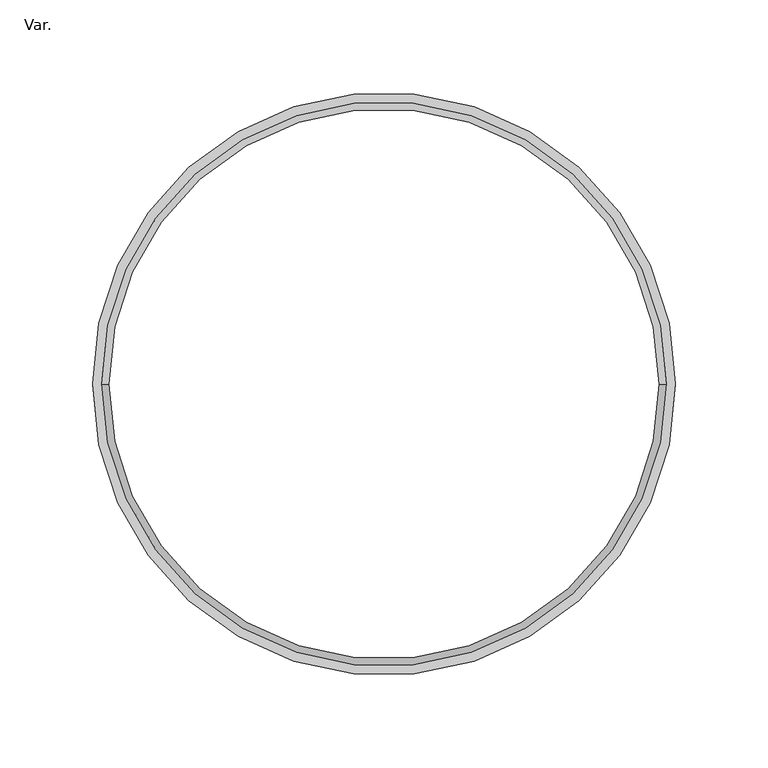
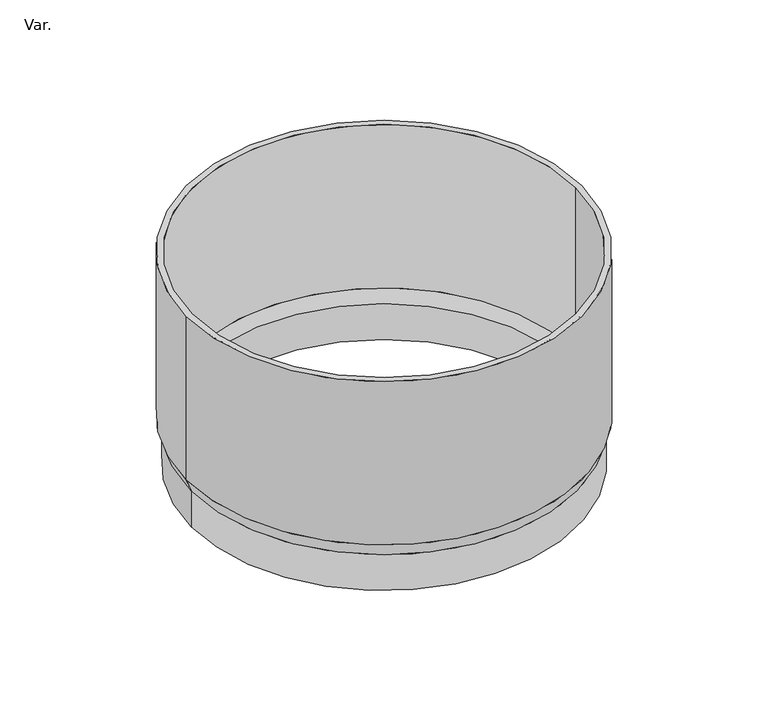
"""IFC4 building model written with IfcOpenShell, lengths in millimetres: pipe fitting geometry, AmancoWavin_ConexõesdeTubos_EsgotoZNãoUsarEsgotoProlongamento300mm : Var.."""

from ifc_helpers import new_model, si_unit, point, frame, origin, origin_2d, place, context, project, spatial, polyline, circle_curve, trimmed, segment, composite_curve, outline, extrude, source, transform, mapped, element, save
from ifc_brep_helpers import plane_surface, cylinder_surface, revolved_surface, advanced_brep


def var_ae364558(model_context):
    return source(origin(), model_context, "Body", "SolidModel", [
        extrude(outline(composite_curve([segment(trimmed(circle_curve(origin_2d(), 157.5), [point((-157.5, 0.0))], [point((157.5, 0.0))], False, "CARTESIAN"), True, "CONTINUOUS"), segment(trimmed(circle_curve(origin_2d(), 157.5), [point((157.5, 0.0))], [point((-157.5, 0.0))], False, "CARTESIAN"), True, "CONTINUOUS")], self_intersect=False), holes=[composite_curve([segment(trimmed(circle_curve(origin_2d(), 152.5), [point((-152.5, 0.0))], [point((152.5, 0.0))], True, "CARTESIAN"), True, "CONTINUOUS"), segment(trimmed(circle_curve(origin_2d(), 152.5), [point((152.5, 0.0))], [point((-152.5, 0.0))], True, "CARTESIAN"), True, "CONTINUOUS")], self_intersect=False)]), frame((0.0, 0.0, 40.9903811), z_axis=(0.0, 0.0, 1.0), x_axis=(1.0, 0.0, 0.0)), (0.0, 0.0, 1.0), 137.8096189),
        advanced_brep(
        [(153.8, 0.0, 30.2), (-153.8, 0.0, 30.2), (-157.5, 0.0, 40.9903811), (157.5, 0.0, 40.9903811), (153.8, 0.0, 0.0), (-153.8, 0.0, 0.0), (148.8, 0.0, 0.0), (-148.8, 0.0, 0.0), (148.8, 0.0, 30.2), (-148.8, 0.0, 30.2), (152.5, 0.0, 40.9903811), (-152.5, 0.0, 40.9903811)],
        [
            (0, 1, circle_curve(frame((0.0, 0.0, 30.2), z_axis=(0.0, 0.0, 1.0), x_axis=(-1.0, 0.0, 0.0)), 153.8)),
            (1, 2),
            (2, 3, circle_curve(frame((0.0, 0.0, 40.9903811), z_axis=(0.0, 0.0, -1.0), x_axis=(-1.0, 0.0, 0.0)), 157.5)),
            (3, 0),
            (1, 0, circle_curve(frame((0.0, 0.0, 30.2), z_axis=(0.0, 0.0, 1.0), x_axis=(-1.0, 0.0, 0.0)), 153.8)),
            (3, 2, circle_curve(frame((0.0, 0.0, 40.9903811), z_axis=(0.0, 0.0, -1.0), x_axis=(-1.0, 0.0, 0.0)), 157.5)),
            (4, 5, circle_curve(frame((0.0, 0.0, 0.0), z_axis=(0.0, 0.0, 1.0), x_axis=(-1.0, 0.0, 0.0)), 153.8)),
            (5, 1),
            (0, 4),
            (5, 4, circle_curve(frame((0.0, 0.0, 0.0), z_axis=(0.0, 0.0, 1.0), x_axis=(-1.0, 0.0, 0.0)), 153.8)),
            (6, 7, circle_curve(frame((0.0, 0.0, 0.0), z_axis=(0.0, 0.0, 1.0), x_axis=(-1.0, 0.0, 0.0)), 148.8)),
            (7, 5),
            (4, 6),
            (7, 6, circle_curve(frame((0.0, 0.0, 0.0), z_axis=(0.0, 0.0, 1.0), x_axis=(-1.0, 0.0, 0.0)), 148.8)),
            (8, 9, circle_curve(frame((0.0, 0.0, 30.2), z_axis=(0.0, 0.0, 1.0), x_axis=(-1.0, 0.0, 0.0)), 148.8)),
            (9, 7),
            (6, 8),
            (9, 8, circle_curve(frame((0.0, 0.0, 30.2), z_axis=(0.0, 0.0, 1.0), x_axis=(-1.0, 0.0, 0.0)), 148.8)),
            (10, 11, circle_curve(frame((0.0, 0.0, 40.9903811), z_axis=(0.0, 0.0, 1.0), x_axis=(-1.0, 0.0, 0.0)), 152.5)),
            (11, 9),
            (8, 10),
            (11, 10, circle_curve(frame((0.0, 0.0, 40.9903811), z_axis=(0.0, 0.0, 1.0), x_axis=(-1.0, 0.0, 0.0)), 152.5)),
            (2, 11),
            (10, 3),
        ],
        [
            revolved_surface(polyline([(-157.5, 0.0, 40.9903811), (-153.8, 0.0, 30.2)]), (0.0, 0.0, 2124.8843863), (0.0, 0.0, -1.0)),
            cylinder_surface(frame((0.0, 0.0, 2124.8843863), z_axis=(0.0, 0.0, -1.0), x_axis=(-1.0, 0.0, 0.0)), 153.8),
            plane_surface(frame((0.0, 0.0, 0.0), z_axis=(0.0, 0.0, -1.0), x_axis=(-1.0, 0.0, 0.0))),
            revolved_surface(polyline([(-148.8, 0.0, 0.0), (-148.8, 0.0, 30.199999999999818)]), (0.0, 0.0, 2124.8843863), (0.0, 0.0, -1.0)),
            revolved_surface(polyline([(-148.8, 0.0, 30.2), (-152.5, 0.0, 40.9903811)]), (0.0, 0.0, 2124.8843863), (0.0, 0.0, -1.0)),
            plane_surface(frame((0.0, 0.0, 40.9903811), z_axis=(0.0, 0.0, 1.0), x_axis=(-1.0, 0.0, 0.0))),
        ],
        [
            (0, [[1, 2, 3, 4]]),
            (0, [[5, -4, 6, -2]]),
            (1, [[7, 8, -1, 9]]),
            (1, [[10, -9, -5, -8]]),
            (2, [[11, 12, -7, 13]]),
            (2, [[14, -13, -10, -12]]),
            (3, [[15, 16, -11, 17]]),
            (3, [[18, -17, -14, -16]]),
            (4, [[19, 20, -15, 21]]),
            (4, [[22, -21, -18, -20]]),
            (5, [[-3, 23, -19, 24]]),
            (5, [[-6, -24, -22, -23]]),
        ],
    ),
    ])


if __name__ == "__main__":
    model = new_model("IFC4")
    model_context = context("Model", 3, world=origin())
    ifc_project = project(units=[si_unit("LENGTHUNIT", "METRE", prefix="MILLI")], contexts=[model_context])
    site = spatial("IfcSite", under=ifc_project)
    building = spatial("IfcBuilding", under=site)
    placement = place(None, origin())
    var_shape = var_ae364558(model_context)
    element("IfcPipeFitting", 1, ObjectType="AmancoWavin_ConexõesdeTubos_EsgotoZNãoUsarEsgotoProlongamento300mm : Var.", at=placement, inside=building, context=model_context, shape_type="MappedRepresentation", body=[
        mapped(var_shape, transform((0.0, 0.0, 0.0), x_axis=(1.0, 0.0, 0.0), y_axis=(0.0, 1.0, 0.0), z_axis=(0.0, 0.0, 1.0))),
    ])
    save(model, "model.ifc")
